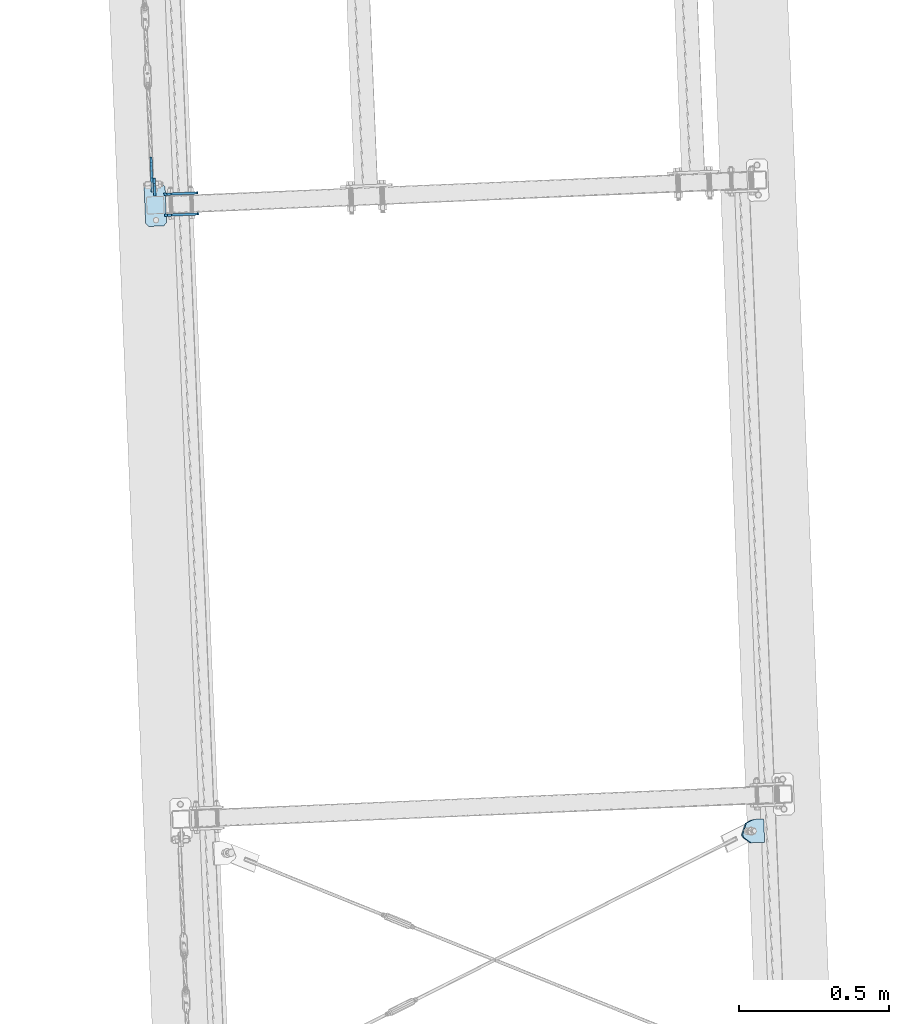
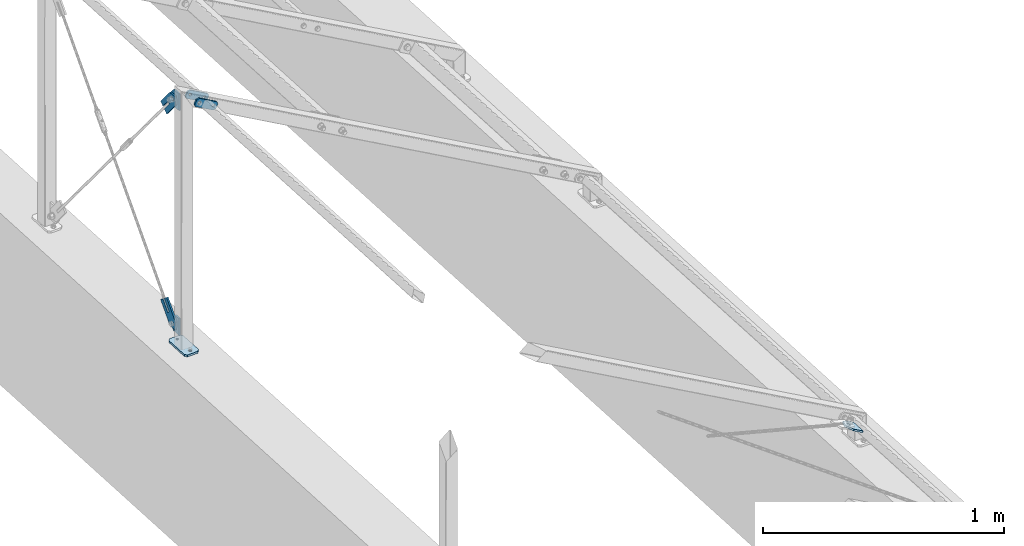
# One storey, part 40 of 288: 8 plates, 34 openings.
"""IFC2X3 building model written with IfcOpenShell, lengths in millimetres."""

from ifc_helpers import new_model, entity, si_unit, converted_unit, point, frame, frame_2d, origin, origin_with_axes, origin_2d_with_axis, place, context, project, spatial, polyline, circle_curve, line_curve, trimmed, segment, composite_curve, circle, outline, extrude, material, layer, layer_set, element, save


model = new_model("IFC2X3")

# Units and contexts
model_context = context("Model", 3, precision=1e-09, world=origin_with_axes())
ifc_project = project(units=[si_unit("LENGTHUNIT", "METRE", prefix="MILLI"), si_unit("AREAUNIT", "SQUARE_METRE"), si_unit("VOLUMEUNIT", "CUBIC_METRE"), converted_unit("PLANEANGLEUNIT", "DEGREE", entity("IfcPlaneAngleMeasure", 0.01745329), si_unit("PLANEANGLEUNIT", "RADIAN"), dimensions=[0, 0, 0, 0, 0, 0, 0])], contexts=[model_context])

# Site, building, storey
site_placement = place(None, origin_with_axes())
site = spatial("IfcSite", under=ifc_project, at=site_placement, Name="Remont ?wietlik?w nad MC w NCPP w Opolu", CompositionType="ELEMENT")
building_placement = place(site_placement, origin_with_axes())
building = spatial("IfcBuilding", under=site, at=building_placement, Name="Konstrukcja 1", CompositionType="ELEMENT")
storey_placement = place(building_placement, origin_with_axes())
storey = spatial("IfcBuildingStorey", under=building, at=storey_placement, Name="Default Storey", CompositionType="ELEMENT", Elevation=0.0)

# Plate, openings
ifc_material = material(Name="S235")
ifc_layer_1 = layer(ifc_material, 8.0)
ifc_layer_set_1 = layer_set([ifc_layer_1], Name="S235")
plate_1_placement = place(None, frame((-392.585931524, 7002.29711536, 1232.678819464), z_axis=(-0.041662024, 0.999131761, 1.7472e-05), x_axis=(0.499566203, 0.020815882, 0.866025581)))
plate_1 = element("IfcPlate", 1, at=plate_1_placement, inside=storey, material=ifc_layer_set_1, Name="-", ObjectType="-", context=model_context, shape_type="SweptSolid", body=[
    extrude(outline(polyline([(0.0, 0.0), (40.0, 0.0), (40.0, 120.0), (0.0, 120.0), (0.0, 0.0)])), origin_with_axes(), (0.0, 0.0, 1.0), 8.0),
])
opening_1_placement = place(plate_1_placement, frame((0.0, 0.0, -0.01), z_axis=(0.0, 0.0, 1.0), x_axis=(1.0, 0.0, 0.0)))
element("IfcOpeningElement", 2, at=opening_1_placement, cuts=plate_1, ObjectType="Opening", context=model_context, shape_type="SweptSolid", body=[
    extrude(outline(composite_curve([segment(trimmed(line_curve((40.0, 0.0), (0.0, 1.0), 10.0), [point((40.0, 0.0))], [point((40.0, 10.0))], True, "CARTESIAN"), True, "CONTINUOUS"), segment(trimmed(circle_curve(frame_2d((30.0, 10.0), x_axis=(-1.0, 0.0)), 10.0), [point((40.0, 10.0))], [point((30.0, 0.0))], False, "CARTESIAN"), True, "CONTINUOUS"), segment(trimmed(line_curve((30.0, 0.0), (1.0, 0.0), 10.0), [point((30.0, 0.0))], [point((40.0, 0.0))], True, "CARTESIAN"), True, "CONTINUOUS")], self_intersect=False)), origin(), (0.0, 0.0, 1.0), 8.02),
])
opening_2_placement = place(plate_1_placement, frame((0.0, 0.0, -0.01), z_axis=(0.0, 0.0, 1.0), x_axis=(1.0, 0.0, 0.0)))
element("IfcOpeningElement", 3, at=opening_2_placement, cuts=plate_1, ObjectType="Opening", context=model_context, shape_type="SweptSolid", body=[
    extrude(outline(composite_curve([segment(trimmed(line_curve((0.0, 0.0), (1.0, 0.0), 10.0), [point((0.0, 0.0))], [point((10.0, 0.0))], True, "CARTESIAN"), True, "CONTINUOUS"), segment(trimmed(circle_curve(frame_2d((10.0, 10.0), x_axis=(-1.0, 0.0)), 10.0), [point((10.0, 0.0))], [point((0.0, 10.0))], False, "CARTESIAN"), True, "CONTINUOUS"), segment(trimmed(line_curve((0.0, 10.0), (0.0, -1.0), 10.0), [point((0.0, 10.0))], [point((0.0, 0.0))], True, "CARTESIAN"), True, "CONTINUOUS")], self_intersect=False)), origin(), (0.0, 0.0, 1.0), 8.02),
])
opening_3_placement = place(plate_1_placement, frame((0.0, 0.0, -0.01), z_axis=(0.0, 0.0, 1.0), x_axis=(1.0, 0.0, 0.0)))
element("IfcOpeningElement", 4, at=opening_3_placement, cuts=plate_1, ObjectType="Opening", context=model_context, shape_type="SweptSolid", body=[
    extrude(outline(composite_curve([segment(trimmed(line_curve((40.0, 120.0), (-1.0, 0.0), 10.0), [point((40.0, 120.0))], [point((30.0, 120.0))], True, "CARTESIAN"), True, "CONTINUOUS"), segment(trimmed(circle_curve(frame_2d((30.0, 110.0), x_axis=(-1.0, 0.0)), 10.0), [point((30.0, 120.0))], [point((40.0, 110.0))], False, "CARTESIAN"), True, "CONTINUOUS"), segment(trimmed(line_curve((40.0, 110.0), (0.0, 1.0), 10.0), [point((40.0, 110.0))], [point((40.0, 120.0))], True, "CARTESIAN"), True, "CONTINUOUS")], self_intersect=False)), origin(), (0.0, 0.0, 1.0), 8.02),
])
opening_4_placement = place(plate_1_placement, frame((0.0, 0.0, -0.01), z_axis=(0.0, 0.0, 1.0), x_axis=(1.0, 0.0, 0.0)))
element("IfcOpeningElement", 5, at=opening_4_placement, cuts=plate_1, ObjectType="Opening", context=model_context, shape_type="SweptSolid", body=[
    extrude(outline(composite_curve([segment(trimmed(line_curve((0.0, 120.0), (0.0, -1.0), 10.0), [point((0.0, 120.0))], [point((0.0, 110.0))], True, "CARTESIAN"), True, "CONTINUOUS"), segment(trimmed(circle_curve(frame_2d((10.0, 110.0), x_axis=(-1.0, 0.0)), 10.0), [point((0.0, 110.0))], [point((10.0, 120.0))], False, "CARTESIAN"), True, "CONTINUOUS"), segment(trimmed(line_curve((10.0, 120.0), (-1.0, 0.0), 10.0), [point((10.0, 120.0))], [point((0.0, 120.0))], True, "CARTESIAN"), True, "CONTINUOUS")], self_intersect=False)), origin(), (0.0, 0.0, 1.0), 8.02),
])
opening_5_placement = place(plate_1_placement, frame((12.999, 20.0, 8.5), z_axis=(0.0, 0.0, 1.0), x_axis=(1.0, 0.0, 0.0)))
element("IfcOpeningElement", 6, at=opening_5_placement, cuts=plate_1, ObjectType="Opening", context=model_context, shape_type="SweptSolid", body=[
    extrude(circle(Radius=7.001, at=frame_2d((7.001, 0.0), x_axis=(1.0, 0.0))), origin(), (0.0, 0.0, -1.0), 9.0),
])
opening_6_placement = place(plate_1_placement, frame((12.999, 100.0, 8.5), z_axis=(0.0, 0.0, 1.0), x_axis=(1.0, 0.0, 0.0)))
element("IfcOpeningElement", 7, at=opening_6_placement, cuts=plate_1, ObjectType="Opening", context=model_context, shape_type="SweptSolid", body=[
    extrude(circle(Radius=7.001, at=frame_2d((7.001, 0.0), x_axis=(1.0, 0.0))), origin(), (0.0, 0.0, -1.0), 9.0),
])

plate_2_placement = place(None, frame((-395.502273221, 7072.236338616, 1232.680042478), z_axis=(-0.041662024, 0.999131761, 1.7472e-05), x_axis=(0.499566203, 0.020815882, 0.866025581)))
plate_2 = element("IfcPlate", 8, at=plate_2_placement, inside=storey, material=ifc_layer_set_1, Name="-", ObjectType="-", context=model_context, shape_type="SweptSolid", body=[
    extrude(outline(polyline([(0.0, 0.0), (40.0, 0.0), (40.0, 120.0), (0.0, 120.0), (0.0, 0.0)])), origin_with_axes(), (0.0, 0.0, 1.0), 8.0),
])
opening_7_placement = place(plate_2_placement, frame((0.0, 0.0, -0.01), z_axis=(0.0, 0.0, 1.0), x_axis=(1.0, 0.0, 0.0)))
element("IfcOpeningElement", 9, at=opening_7_placement, cuts=plate_2, ObjectType="Opening", context=model_context, shape_type="SweptSolid", body=[
    extrude(outline(composite_curve([segment(trimmed(line_curve((40.0, 0.0), (0.0, 1.0), 10.0), [point((40.0, 0.0))], [point((40.0, 10.0))], True, "CARTESIAN"), True, "CONTINUOUS"), segment(trimmed(circle_curve(frame_2d((30.0, 10.0), x_axis=(-1.0, 0.0)), 10.0), [point((40.0, 10.0))], [point((30.0, 0.0))], False, "CARTESIAN"), True, "CONTINUOUS"), segment(trimmed(line_curve((30.0, 0.0), (1.0, 0.0), 10.0), [point((30.0, 0.0))], [point((40.0, 0.0))], True, "CARTESIAN"), True, "CONTINUOUS")], self_intersect=False)), origin(), (0.0, 0.0, 1.0), 8.02),
])
opening_8_placement = place(plate_2_placement, frame((0.0, 0.0, -0.01), z_axis=(0.0, 0.0, 1.0), x_axis=(1.0, 0.0, 0.0)))
element("IfcOpeningElement", 10, at=opening_8_placement, cuts=plate_2, ObjectType="Opening", context=model_context, shape_type="SweptSolid", body=[
    extrude(outline(composite_curve([segment(trimmed(line_curve((0.0, 0.0), (1.0, 0.0), 10.0), [point((0.0, 0.0))], [point((10.0, 0.0))], True, "CARTESIAN"), True, "CONTINUOUS"), segment(trimmed(circle_curve(frame_2d((10.0, 10.0), x_axis=(-1.0, 0.0)), 10.0), [point((10.0, 0.0))], [point((0.0, 10.0))], False, "CARTESIAN"), True, "CONTINUOUS"), segment(trimmed(line_curve((0.0, 10.0), (0.0, -1.0), 10.0), [point((0.0, 10.0))], [point((0.0, 0.0))], True, "CARTESIAN"), True, "CONTINUOUS")], self_intersect=False)), origin(), (0.0, 0.0, 1.0), 8.02),
])
opening_9_placement = place(plate_2_placement, frame((0.0, 0.0, -0.01), z_axis=(0.0, 0.0, 1.0), x_axis=(1.0, 0.0, 0.0)))
element("IfcOpeningElement", 11, at=opening_9_placement, cuts=plate_2, ObjectType="Opening", context=model_context, shape_type="SweptSolid", body=[
    extrude(outline(composite_curve([segment(trimmed(line_curve((40.0, 120.0), (-1.0, 0.0), 10.0), [point((40.0, 120.0))], [point((30.0, 120.0))], True, "CARTESIAN"), True, "CONTINUOUS"), segment(trimmed(circle_curve(frame_2d((30.0, 110.0), x_axis=(-1.0, 0.0)), 10.0), [point((30.0, 120.0))], [point((40.0, 110.0))], False, "CARTESIAN"), True, "CONTINUOUS"), segment(trimmed(line_curve((40.0, 110.0), (0.0, 1.0), 10.0), [point((40.0, 110.0))], [point((40.0, 120.0))], True, "CARTESIAN"), True, "CONTINUOUS")], self_intersect=False)), origin(), (0.0, 0.0, 1.0), 8.02),
])
opening_10_placement = place(plate_2_placement, frame((0.0, 0.0, -0.01), z_axis=(0.0, 0.0, 1.0), x_axis=(1.0, 0.0, 0.0)))
element("IfcOpeningElement", 12, at=opening_10_placement, cuts=plate_2, ObjectType="Opening", context=model_context, shape_type="SweptSolid", body=[
    extrude(outline(composite_curve([segment(trimmed(line_curve((0.0, 120.0), (0.0, -1.0), 10.0), [point((0.0, 120.0))], [point((0.0, 110.0))], True, "CARTESIAN"), True, "CONTINUOUS"), segment(trimmed(circle_curve(frame_2d((10.0, 110.0), x_axis=(-1.0, 0.0)), 10.0), [point((0.0, 110.0))], [point((10.0, 120.0))], False, "CARTESIAN"), True, "CONTINUOUS"), segment(trimmed(line_curve((10.0, 120.0), (-1.0, 0.0), 10.0), [point((10.0, 120.0))], [point((0.0, 120.0))], True, "CARTESIAN"), True, "CONTINUOUS")], self_intersect=False)), origin(), (0.0, 0.0, 1.0), 8.02),
])
opening_11_placement = place(plate_2_placement, frame((12.999, 20.0, 8.5), z_axis=(0.0, 0.0, 1.0), x_axis=(1.0, 0.0, 0.0)))
element("IfcOpeningElement", 13, at=opening_11_placement, cuts=plate_2, ObjectType="Opening", context=model_context, shape_type="SweptSolid", body=[
    extrude(circle(Radius=7.001, at=frame_2d((7.001, 0.0), x_axis=(1.0, 0.0))), origin(), (0.0, 0.0, -1.0), 9.0),
])
opening_12_placement = place(plate_2_placement, frame((12.999, 100.0, 8.5), z_axis=(0.0, 0.0, 1.0), x_axis=(1.0, 0.0, 0.0)))
element("IfcOpeningElement", 14, at=opening_12_placement, cuts=plate_2, ObjectType="Opening", context=model_context, shape_type="SweptSolid", body=[
    extrude(circle(Radius=7.001, at=frame_2d((7.001, 0.0), x_axis=(1.0, 0.0))), origin(), (0.0, 0.0, -1.0), 9.0),
])

ifc_layer_2 = layer(ifc_material, 10.0)
ifc_layer_set_2 = layer_set([ifc_layer_2], Name="S235")
plate_3_placement = place(None, frame((-380.857001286, 6971.758945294, 10.000000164), z_axis=(0.0, 0.0, -1.0), x_axis=(-0.999131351, -0.041671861, 0.0)))
plate_3 = element("IfcPlate", 15, at=plate_3_placement, inside=storey, material=ifc_layer_set_2, Name="Baseplate", ObjectType="Baseplate", context=model_context, shape_type="SweptSolid", body=[
    extrude(outline(polyline([(0.0, 0.0), (70.0, 0.0), (70.0, 140.0), (0.0, 140.0), (0.0, 0.0)])), origin_with_axes(), (0.0, 0.0, 1.0), 10.0),
])
opening_13_placement = place(plate_3_placement, frame((0.0, 0.0, -0.01), z_axis=(0.0, 0.0, 1.0), x_axis=(1.0, 0.0, 0.0)))
element("IfcOpeningElement", 16, at=opening_13_placement, cuts=plate_3, ObjectType="Opening", context=model_context, shape_type="SweptSolid", body=[
    extrude(outline(composite_curve([segment(trimmed(line_curve((70.0, 0.0), (0.0, 1.0), 10.0), [point((70.0, 0.0))], [point((70.0, 10.0))], True, "CARTESIAN"), True, "CONTINUOUS"), segment(trimmed(circle_curve(frame_2d((60.0, 10.0), x_axis=(-1.0, 0.0)), 10.0), [point((70.0, 10.0))], [point((60.0, 0.0))], False, "CARTESIAN"), True, "CONTINUOUS"), segment(trimmed(line_curve((60.0, 0.0), (1.0, 0.0), 10.0), [point((60.0, 0.0))], [point((70.0, 0.0))], True, "CARTESIAN"), True, "CONTINUOUS")], self_intersect=False)), origin(), (0.0, 0.0, 1.0), 10.02),
])
opening_14_placement = place(plate_3_placement, frame((0.0, 0.0, -0.01), z_axis=(0.0, 0.0, 1.0), x_axis=(1.0, 0.0, 0.0)))
element("IfcOpeningElement", 17, at=opening_14_placement, cuts=plate_3, ObjectType="Opening", context=model_context, shape_type="SweptSolid", body=[
    extrude(outline(composite_curve([segment(trimmed(line_curve((0.0, 0.0), (1.0, 0.0), 10.0), [point((0.0, 0.0))], [point((10.0, 0.0))], True, "CARTESIAN"), True, "CONTINUOUS"), segment(trimmed(circle_curve(frame_2d((10.0, 10.0), x_axis=(-1.0, 0.0)), 10.0), [point((10.0, 0.0))], [point((0.0, 10.0))], False, "CARTESIAN"), True, "CONTINUOUS"), segment(trimmed(line_curve((0.0, 10.0), (0.0, -1.0), 10.0), [point((0.0, 10.0))], [point((0.0, 0.0))], True, "CARTESIAN"), True, "CONTINUOUS")], self_intersect=False)), origin(), (0.0, 0.0, 1.0), 10.02),
])
opening_15_placement = place(plate_3_placement, frame((0.0, 0.0, -0.01), z_axis=(0.0, 0.0, 1.0), x_axis=(1.0, 0.0, 0.0)))
element("IfcOpeningElement", 18, at=opening_15_placement, cuts=plate_3, ObjectType="Opening", context=model_context, shape_type="SweptSolid", body=[
    extrude(outline(composite_curve([segment(trimmed(line_curve((70.0, 140.0), (-1.0, 0.0), 10.0), [point((70.0, 140.0))], [point((60.0, 140.0))], True, "CARTESIAN"), True, "CONTINUOUS"), segment(trimmed(circle_curve(frame_2d((60.0, 130.0), x_axis=(-1.0, 0.0)), 10.0), [point((60.0, 140.0))], [point((70.0, 130.0))], False, "CARTESIAN"), True, "CONTINUOUS"), segment(trimmed(line_curve((70.0, 130.0), (0.0, 1.0), 10.0), [point((70.0, 130.0))], [point((70.0, 140.0))], True, "CARTESIAN"), True, "CONTINUOUS")], self_intersect=False)), origin(), (0.0, 0.0, 1.0), 10.02),
])
opening_16_placement = place(plate_3_placement, frame((0.0, 0.0, -0.01), z_axis=(0.0, 0.0, 1.0), x_axis=(1.0, 0.0, 0.0)))
element("IfcOpeningElement", 19, at=opening_16_placement, cuts=plate_3, ObjectType="Opening", context=model_context, shape_type="SweptSolid", body=[
    extrude(outline(composite_curve([segment(trimmed(line_curve((0.0, 140.0), (0.0, -1.0), 10.0), [point((0.0, 140.0))], [point((0.0, 130.0))], True, "CARTESIAN"), True, "CONTINUOUS"), segment(trimmed(circle_curve(frame_2d((10.0, 130.0), x_axis=(-1.0, 0.0)), 10.0), [point((0.0, 130.0))], [point((10.0, 140.0))], False, "CARTESIAN"), True, "CONTINUOUS"), segment(trimmed(line_curve((10.0, 140.0), (-1.0, 0.0), 10.0), [point((10.0, 140.0))], [point((0.0, 140.0))], True, "CARTESIAN"), True, "CONTINUOUS")], self_intersect=False)), origin(), (0.0, 0.0, 1.0), 10.02),
])
opening_17_placement = place(plate_3_placement, frame((35.0, 120.0, 10.5), z_axis=(0.0, 0.0, -1.0), x_axis=(1.0, 0.0, 0.0)))
element("IfcOpeningElement", 20, at=opening_17_placement, cuts=plate_3, ObjectType="Opening", context=model_context, shape_type="SweptSolid", body=[
    extrude(circle(Radius=6.001, at=origin_2d_with_axis()), origin(), (0.0, 0.0, 1.0), 11.0),
])
opening_18_placement = place(plate_3_placement, frame((35.0, 20.0, 10.5), z_axis=(0.0, 0.0, -1.0), x_axis=(1.0, 0.0, 0.0)))
element("IfcOpeningElement", 21, at=opening_18_placement, cuts=plate_3, ObjectType="Opening", context=model_context, shape_type="SweptSolid", body=[
    extrude(circle(Radius=6.001, at=origin_2d_with_axis()), origin(), (0.0, 0.0, 1.0), 11.0),
])

plate_4_placement = place(None, frame((-437.420199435, 7200.068032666, 149.974385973), z_axis=(0.999131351, 0.041671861, 0.0), x_axis=(0.032345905, -0.775530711, 0.630480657)))
plate_4 = element("IfcPlate", 22, at=plate_4_placement, inside=storey, material=ifc_layer_set_1, Name="Tab_Plate#1", ObjectType="Tab_Plate#1", context=model_context, shape_type="SweptSolid", body=[
    extrude(outline(polyline([(0.0, 0.0), (60.0, 0.0), (60.0, 140.0), (0.0, 140.0), (0.0, 0.0)])), origin_with_axes(), (0.0, 0.0, 1.0), 8.0),
])
opening_19_placement = place(plate_4_placement, frame((0.0, 0.0, -0.01), z_axis=(0.0, 0.0, 1.0), x_axis=(1.0, 0.0, 0.0)))
element("IfcOpeningElement", 23, at=opening_19_placement, cuts=plate_4, ObjectType="Opening", context=model_context, shape_type="SweptSolid", body=[
    extrude(outline(composite_curve([segment(trimmed(line_curve((60.0, 140.0), (-1.0, 0.0), 30.0), [point((60.0, 140.0))], [point((30.0, 140.0))], True, "CARTESIAN"), True, "CONTINUOUS"), segment(trimmed(circle_curve(frame_2d((30.0, 110.0), x_axis=(-1.0, 0.0)), 30.0), [point((30.0, 140.0))], [point((60.0, 110.0))], False, "CARTESIAN"), True, "CONTINUOUS"), segment(trimmed(line_curve((60.0, 110.0), (0.0, 1.0), 30.0), [point((60.0, 110.0))], [point((60.0, 140.0))], True, "CARTESIAN"), True, "CONTINUOUS")], self_intersect=False)), origin(), (0.0, 0.0, 1.0), 8.02),
])
opening_20_placement = place(plate_4_placement, frame((0.0, 0.0, -0.01), z_axis=(0.0, 0.0, 1.0), x_axis=(1.0, 0.0, 0.0)))
element("IfcOpeningElement", 24, at=opening_20_placement, cuts=plate_4, ObjectType="Opening", context=model_context, shape_type="SweptSolid", body=[
    extrude(outline(composite_curve([segment(trimmed(line_curve((0.0, 140.0), (0.0, -1.0), 30.0), [point((0.0, 140.0))], [point((0.0, 110.0))], True, "CARTESIAN"), True, "CONTINUOUS"), segment(trimmed(circle_curve(frame_2d((30.0, 110.0), x_axis=(-1.0, 0.0)), 30.0), [point((0.0, 110.0))], [point((30.0, 140.0))], False, "CARTESIAN"), True, "CONTINUOUS"), segment(trimmed(line_curve((30.0, 140.0), (-1.0, 0.0), 30.0), [point((30.0, 140.0))], [point((0.0, 140.0))], True, "CARTESIAN"), True, "CONTINUOUS")], self_intersect=False)), origin(), (0.0, 0.0, 1.0), 8.02),
])
opening_21_placement = place(plate_4_placement, frame((0.0, 0.0, 8.1), z_axis=(0.0, 0.0, -1.0), x_axis=(0.77620496, 0.630480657, 0.0)))
element("IfcOpeningElement", 25, at=opening_21_placement, cuts=plate_4, ObjectType="Opening", context=model_context, shape_type="SweptSolid", body=[
    extrude(outline(polyline([(56.311888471, -32.848854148), (67.180310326, -24.020863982), (28.719729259, 23.329191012), (17.851307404, 14.501200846), (56.311888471, -32.848854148)])), origin(), (0.0, 0.0, 1.0), 8.2),
])
opening_22_placement = place(plate_4_placement, frame((30.0, 110.0, 8.5), z_axis=(0.0, 0.0, -1.0), x_axis=(0.0, -1.0, 0.0)))
element("IfcOpeningElement", 26, at=opening_22_placement, cuts=plate_4, ObjectType="Opening", context=model_context, shape_type="SweptSolid", body=[
    extrude(circle(Radius=9.001, at=origin_2d_with_axis()), origin(), (0.0, 0.0, 1.0), 9.0),
])

plate_5_placement = place(None, frame((-417.391479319, 7103.808300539, 125.70682859), z_axis=(-0.999131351, -0.041671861, 0.0), x_axis=(-0.032345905, 0.775530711, -0.630480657)))
plate_5 = element("IfcPlate", 27, at=plate_5_placement, inside=storey, material=ifc_layer_set_1, Name="Gusset#1", ObjectType="Gusset#1", context=model_context, shape_type="SweptSolid", body=[
    extrude(outline(polyline([(0.0, 0.0), (60.0, 0.0), (60.0, 60.0), (27.24370937, 86.606642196), (-25.969575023, 21.094060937), (0.0, 0.0)])), origin_with_axes(), (0.0, 0.0, 1.0), 8.0),
])
opening_23_placement = place(plate_5_placement, frame((30.0, 30.0, -0.5), z_axis=(0.0, 0.0, 1.0), x_axis=(0.0, -1.0, 0.0)))
element("IfcOpeningElement", 28, at=opening_23_placement, cuts=plate_5, ObjectType="Opening", context=model_context, shape_type="SweptSolid", body=[
    extrude(circle(Radius=9.001, at=origin_2d_with_axis()), origin(), (0.0, 0.0, 1.0), 9.0),
])
opening_24_placement = place(plate_5_placement, frame((0.0, 0.0, -0.01), z_axis=(0.0, 0.0, 1.0), x_axis=(1.0, 0.0, 0.0)))
element("IfcOpeningElement", 29, at=opening_24_placement, cuts=plate_5, ObjectType="Opening", context=model_context, shape_type="SweptSolid", body=[
    extrude(outline(composite_curve([segment(trimmed(line_curve((60.0, 0.0), (0.0, 1.0), 30.0), [point((60.0, 0.0))], [point((60.0, 30.0))], True, "CARTESIAN"), True, "CONTINUOUS"), segment(trimmed(circle_curve(frame_2d((30.0, 30.0), x_axis=(-1.0, 0.0)), 30.0), [point((60.0, 30.0))], [point((30.0, 0.0))], False, "CARTESIAN"), True, "CONTINUOUS"), segment(trimmed(line_curve((30.0, 0.0), (1.0, 0.0), 30.0), [point((30.0, 0.0))], [point((60.0, 0.0))], True, "CARTESIAN"), True, "CONTINUOUS")], self_intersect=False)), origin(), (0.0, 0.0, 1.0), 8.02),
])

plate_6_placement = place(None, frame((-429.427148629, 7200.401407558, 1155.02561436), z_axis=(-0.999131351, -0.041671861, 0.0), x_axis=(0.032345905, -0.775530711, -0.630480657)))
plate_6 = element("IfcPlate", 30, at=plate_6_placement, inside=storey, material=ifc_layer_set_1, Name="Tab_Plate#2", ObjectType="Tab_Plate#2", context=model_context, shape_type="SweptSolid", body=[
    extrude(outline(polyline([(0.0, 0.0), (60.0, 0.0), (60.0, 140.0), (0.0, 140.0), (0.0, 0.0)])), origin_with_axes(), (0.0, 0.0, 1.0), 8.0),
])
opening_25_placement = place(plate_6_placement, frame((0.0, 0.0, -0.01), z_axis=(0.0, 0.0, 1.0), x_axis=(1.0, 0.0, 0.0)))
element("IfcOpeningElement", 31, at=opening_25_placement, cuts=plate_6, ObjectType="Opening", context=model_context, shape_type="SweptSolid", body=[
    extrude(outline(composite_curve([segment(trimmed(line_curve((60.0, 140.0), (-1.0, 0.0), 30.0), [point((60.0, 140.0))], [point((30.0, 140.0))], True, "CARTESIAN"), True, "CONTINUOUS"), segment(trimmed(circle_curve(frame_2d((30.0, 110.0), x_axis=(-1.0, 0.0)), 30.0), [point((30.0, 140.0))], [point((60.0, 110.0))], False, "CARTESIAN"), True, "CONTINUOUS"), segment(trimmed(line_curve((60.0, 110.0), (0.0, 1.0), 30.0), [point((60.0, 110.0))], [point((60.0, 140.0))], True, "CARTESIAN"), True, "CONTINUOUS")], self_intersect=False)), origin(), (0.0, 0.0, 1.0), 8.02),
])
opening_26_placement = place(plate_6_placement, frame((0.0, 0.0, -0.01), z_axis=(0.0, 0.0, 1.0), x_axis=(1.0, 0.0, 0.0)))
element("IfcOpeningElement", 32, at=opening_26_placement, cuts=plate_6, ObjectType="Opening", context=model_context, shape_type="SweptSolid", body=[
    extrude(outline(composite_curve([segment(trimmed(line_curve((0.0, 140.0), (0.0, -1.0), 30.0), [point((0.0, 140.0))], [point((0.0, 110.0))], True, "CARTESIAN"), True, "CONTINUOUS"), segment(trimmed(circle_curve(frame_2d((30.0, 110.0), x_axis=(-1.0, 0.0)), 30.0), [point((0.0, 110.0))], [point((30.0, 140.0))], False, "CARTESIAN"), True, "CONTINUOUS"), segment(trimmed(line_curve((30.0, 140.0), (-1.0, 0.0), 30.0), [point((30.0, 140.0))], [point((0.0, 140.0))], True, "CARTESIAN"), True, "CONTINUOUS")], self_intersect=False)), origin(), (0.0, 0.0, 1.0), 8.02),
])
opening_27_placement = place(plate_6_placement, frame((0.0, 0.0, 8.1), z_axis=(0.0, 0.0, -1.0), x_axis=(-0.77620496, -0.630480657, 0.0)))
element("IfcOpeningElement", 33, at=opening_27_placement, cuts=plate_6, ObjectType="Opening", context=model_context, shape_type="SweptSolid", body=[
    extrude(outline(polyline([(-56.311888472, 32.848854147), (-67.180310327, 24.02086398), (-28.719729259, -23.329191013), (-17.851307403, -14.501200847), (-56.311888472, 32.848854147)])), origin(), (0.0, 0.0, 1.0), 8.2),
])
opening_28_placement = place(plate_6_placement, frame((30.0, 110.0, 8.5), z_axis=(0.0, 0.0, -1.0), x_axis=(0.0, -1.0, 0.0)))
element("IfcOpeningElement", 34, at=opening_28_placement, cuts=plate_6, ObjectType="Opening", context=model_context, shape_type="SweptSolid", body=[
    extrude(circle(Radius=9.001, at=origin_2d_with_axis()), origin(), (0.0, 0.0, 1.0), 9.0),
])

plate_7_placement = place(None, frame((-425.384530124, 7103.474925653, 1179.293171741), z_axis=(0.999131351, 0.041671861, 0.0), x_axis=(-0.032345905, 0.775530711, 0.630480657)))
plate_7 = element("IfcPlate", 35, at=plate_7_placement, inside=storey, material=ifc_layer_set_1, Name="Gusset#2", ObjectType="Gusset#2", context=model_context, shape_type="SweptSolid", body=[
    extrude(outline(polyline([(0.0, 0.0), (60.0, 0.0), (60.0, 60.0), (27.243709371, 86.606642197), (-25.969575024, 21.09406094), (0.0, 0.0)])), origin_with_axes(), (0.0, 0.0, 1.0), 8.0),
])
opening_29_placement = place(plate_7_placement, frame((30.0, 30.0, -0.5), z_axis=(0.0, 0.0, 1.0), x_axis=(0.0, -1.0, 0.0)))
element("IfcOpeningElement", 36, at=opening_29_placement, cuts=plate_7, ObjectType="Opening", context=model_context, shape_type="SweptSolid", body=[
    extrude(circle(Radius=9.001, at=origin_2d_with_axis()), origin(), (0.0, 0.0, 1.0), 9.0),
])
opening_30_placement = place(plate_7_placement, frame((0.0, 0.0, -0.01), z_axis=(0.0, 0.0, 1.0), x_axis=(1.0, 0.0, 0.0)))
element("IfcOpeningElement", 37, at=opening_30_placement, cuts=plate_7, ObjectType="Opening", context=model_context, shape_type="SweptSolid", body=[
    extrude(outline(composite_curve([segment(trimmed(line_curve((60.0, 0.0), (0.0, 1.0), 30.0), [point((60.0, 0.0))], [point((60.0, 30.0))], True, "CARTESIAN"), True, "CONTINUOUS"), segment(trimmed(circle_curve(frame_2d((30.0, 30.0), x_axis=(-1.0, 0.0)), 30.0), [point((60.0, 30.0))], [point((30.0, 0.0))], False, "CARTESIAN"), True, "CONTINUOUS"), segment(trimmed(line_curve((30.0, 0.0), (1.0, 0.0), 30.0), [point((30.0, 0.0))], [point((60.0, 0.0))], True, "CARTESIAN"), True, "CONTINUOUS")], self_intersect=False)), origin(), (0.0, 0.0, 1.0), 8.02),
])

plate_8_placement = place(None, frame((1549.485921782, 4913.904427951, 186.96592825), z_axis=(-0.500767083, -0.020865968, -0.865330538), x_axis=(-0.354146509, 0.917144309, 0.182829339)))
plate_8 = element("IfcPlate", 38, at=plate_8_placement, inside=storey, material=ifc_layer_set_1, Name="Gusset#2", ObjectType="Gusset#2", context=model_context, shape_type="SweptSolid", body=[
    extrude(outline(polyline([(0.0, 0.0), (60.0, 0.0), (60.0, 60.0), (45.818095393, 96.202515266), (-26.576593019, 67.842757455), (0.0, 0.0)])), origin_with_axes(), (0.0, 0.0, 1.0), 8.0),
])
opening_31_placement = place(plate_8_placement, frame((30.0, 30.0, -0.5), z_axis=(0.0, 0.0, 1.0), x_axis=(0.0, -1.0, 0.0)))
element("IfcOpeningElement", 39, at=opening_31_placement, cuts=plate_8, ObjectType="Opening", context=model_context, shape_type="SweptSolid", body=[
    extrude(circle(Radius=9.001, at=origin_2d_with_axis()), origin(), (0.0, 0.0, 1.0), 9.0),
])
opening_32_placement = place(plate_8_placement, frame((0.0, 0.0, -0.01), z_axis=(0.0, 0.0, 1.0), x_axis=(1.0, 0.0, 0.0)))
element("IfcOpeningElement", 40, at=opening_32_placement, cuts=plate_8, ObjectType="Opening", context=model_context, shape_type="SweptSolid", body=[
    extrude(outline(composite_curve([segment(trimmed(line_curve((60.0, 0.0), (0.0, 1.0), 30.0), [point((60.0, 0.0))], [point((60.0, 30.0))], True, "CARTESIAN"), True, "CONTINUOUS"), segment(trimmed(circle_curve(frame_2d((30.0, 30.0), x_axis=(-1.0, 0.0)), 30.0), [point((60.0, 30.0))], [point((30.0, 0.0))], False, "CARTESIAN"), True, "CONTINUOUS"), segment(trimmed(line_curve((30.0, 0.0), (1.0, 0.0), 30.0), [point((30.0, 0.0))], [point((60.0, 0.0))], True, "CARTESIAN"), True, "CONTINUOUS")], self_intersect=False)), origin(), (0.0, 0.0, 1.0), 8.02),
])
opening_33_placement = place(plate_8_placement, frame((0.0, 0.0, -0.01), z_axis=(0.0, 0.0, 1.0), x_axis=(1.0, 0.0, 0.0)))
element("IfcOpeningElement", 41, at=opening_33_placement, cuts=plate_8, ObjectType="Opening", context=model_context, shape_type="SweptSolid", body=[
    extrude(outline(composite_curve([segment(trimmed(line_curve((0.0, 0.0), (1.0, 0.0), 20.467615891), [point((0.0, 0.0))], [point((20.467615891, 0.0))], True, "CARTESIAN"), True, "CONTINUOUS"), segment(trimmed(circle_curve(frame_2d((20.467615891, 30.0), x_axis=(-1.0, 0.0)), 30.0), [point((20.467615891, 0.0))], [point((-7.465553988, 19.057513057))], False, "CARTESIAN"), True, "CONTINUOUS"), segment(trimmed(line_curve((-7.465553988, 19.057513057), (0.364749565, -0.931105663), 20.467615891), [point((-7.465553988, 19.057513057))], [point((0.0, 0.0))], True, "CARTESIAN"), True, "CONTINUOUS")], self_intersect=False)), origin(), (0.0, 0.0, 1.0), 8.02),
])
opening_34_placement = place(plate_8_placement, frame((0.0, 0.0, -0.01), z_axis=(0.0, 0.0, 1.0), x_axis=(1.0, 0.0, 0.0)))
element("IfcOpeningElement", 42, at=opening_34_placement, cuts=plate_8, ObjectType="Opening", context=model_context, shape_type="SweptSolid", body=[
    extrude(outline(composite_curve([segment(trimmed(line_curve((60.0, 60.0), (-0.364749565, 0.931105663), 5.666436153), [point((60.0, 60.0))], [point((57.933169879, 65.276050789))], True, "CARTESIAN"), True, "CONTINUOUS"), segment(trimmed(circle_curve(frame_2d((30.0, 54.333563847), x_axis=(-1.0, 0.0)), 30.0), [point((57.933169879, 65.276050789))], [point((60.0, 54.333563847))], False, "CARTESIAN"), True, "CONTINUOUS"), segment(trimmed(line_curve((60.0, 54.333563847), (0.0, 1.0), 5.666436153), [point((60.0, 54.333563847))], [point((60.0, 60.0))], True, "CARTESIAN"), True, "CONTINUOUS")], self_intersect=False)), origin(), (0.0, 0.0, 1.0), 8.02),
])

save(model, "model.ifc")
